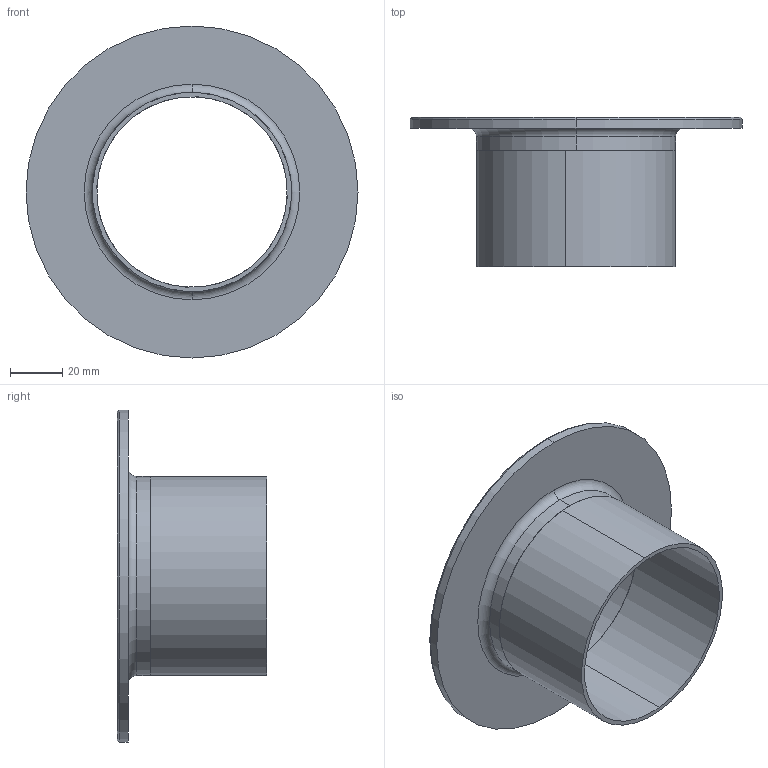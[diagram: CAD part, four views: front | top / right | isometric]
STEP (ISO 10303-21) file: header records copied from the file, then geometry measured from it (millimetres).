
FILE_DESCRIPTION (( 'STEP AP203' ), '1' );
FILE_NAME ('E14WA3.0.STEP', '2018-05-04T18:41:50', ( 'vneprd' ), ( 'Microsoft' ), 'SwSTEP 2.0', 'SolidWorks 2014', '' );
FILE_SCHEMA (( 'CONFIG_CONTROL_DESIGN' ));
Length unit declared in the file: inch
Products named in the file (3): TUBE3.0X1.750; V14WAB3.0; E14WA3.0
Assembly tree (2 placements, depth 2):
  E14WA3.0
    V14WAB3.0
    TUBE3.0X1.750
Bounding box: 127 x 57.15 x 127 mm (x, y, z)
Volume: 53485.9 mm3; surface area: 53009 mm2
Topology: 2 solids, 2 shells, 135 faces, 270 edges, 140 vertices
Faces by surface type: cone 118, cylinder 10, plane 5, torus 2
Entity records: 3725 total; most frequent: DIRECTION 692, CARTESIAN_POINT 550, ORIENTED_EDGE 540, AXIS2_PLACEMENT_3D 282, EDGE_CURVE 270, CIRCLE 142, VERTEX_POINT 140, EDGE_LOOP 140
